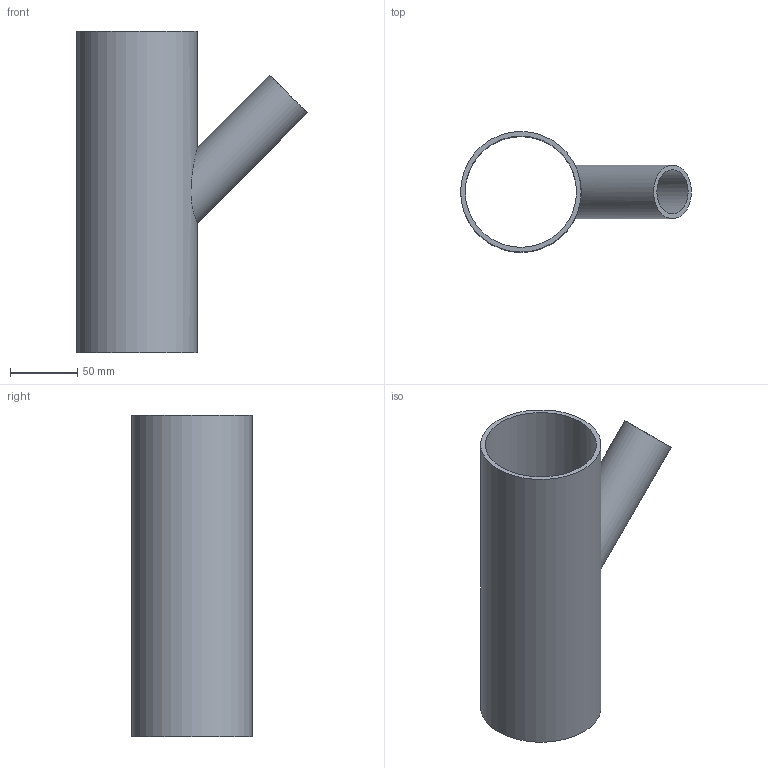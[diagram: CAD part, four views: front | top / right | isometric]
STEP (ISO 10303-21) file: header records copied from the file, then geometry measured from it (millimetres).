
FILE_DESCRIPTION(/* description */ (''),/* implementation_level */ '2;1');
FILE_NAME(/* name */ 'C:\Planerdaten\Export PLA\PRO_101557\stp\366109.stp',/* time_stamp */ '2021-09-30T15:05:18+02:00',/* author */ ('JANAN'),/* organization */ (''),/* preprocessor_version */ 'ST-DEVELOPER v16.13',/* originating_system */ 'Autodesk Inventor 2018',/* authorisation */ '');
FILE_SCHEMA (('AUTOMOTIVE_DESIGN { 1 0 10303 214 3 1 1 }'));
Length unit declared in the file: millimetre
Products named in the file (1): tmpA92B.tmp
Bounding box: 172.28 x 90 x 240 mm (x, y, z)
Volume: 263725.8 mm3; surface area: 152954.8 mm2
Topology: 1 solids, 1 shells, 7 faces, 17 edges, 12 vertices
Faces by surface type: cylinder 4, plane 3
Full cylindrical faces by diameter (mm): 33 x1, 40 x1, 83 x1, 90 x1
Entity records: 308 total; most frequent: CARTESIAN_POINT 130, DIRECTION 28, EDGE_LOOP 16, ORIENTED_EDGE 16, AXIS2_PLACEMENT_3D 14, FACE_BOUND 9, VERTEX_POINT 8, EDGE_CURVE 8
